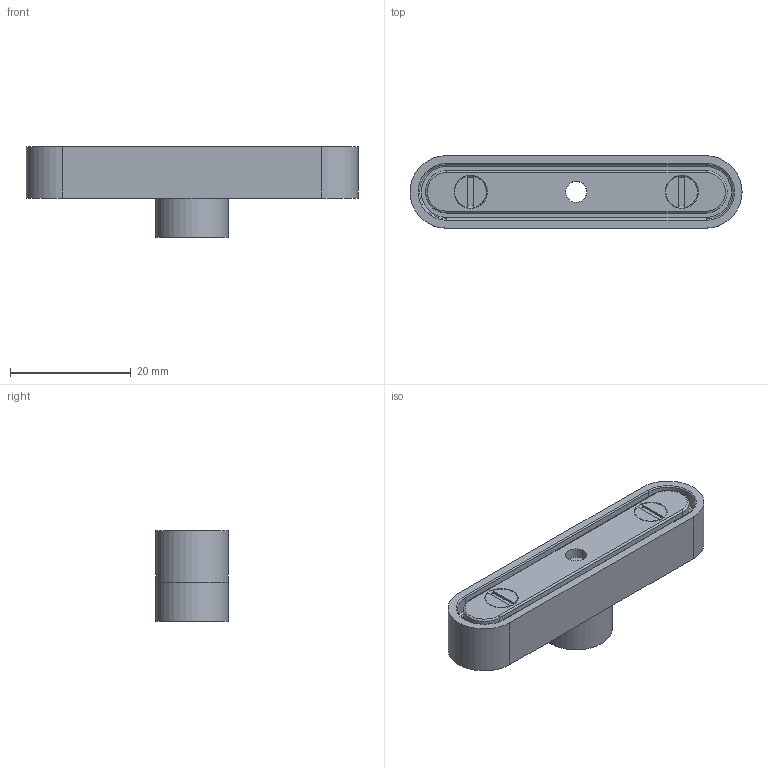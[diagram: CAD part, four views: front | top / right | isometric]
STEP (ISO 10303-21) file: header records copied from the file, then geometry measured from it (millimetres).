
FILE_DESCRIPTION((''),'2;1');
FILE_NAME('W:\Technik\Konstruktion\CAD-Daten\Vakuumsauger\270_\270.441\270.441.stp','2014-02-25T13:19:34',('RKob'),(''),'Autodesk Inventor 2012','Autodesk Inventor 2012','');
FILE_SCHEMA(('AUTOMOTIVE_DESIGN { 1 0 10303 214 1 1 1 1 }'));
Length unit declared in the file: millimetre
Products named in the file (4): 270; Bauteil1; Bauteil2; Bauteil3
Assembly tree (4 placements, depth 2):
  270
    Bauteil1
    Bauteil2
    Bauteil3  x2
Bounding box: 55 x 12 x 15 mm (x, y, z)
Volume: 4762.4 mm3; surface area: 4215.8 mm2
Topology: 4 solids, 4 shells, 69 faces, 154 edges, 95 vertices
Faces by surface type: plane 26, cylinder 24, torus 12, cone 7
Full cylindrical faces by diameter (mm): 3 x6, 3.5 x2, 8.7 x1, 12 x1
Entity records: 1706 total; most frequent: CARTESIAN_POINT 323, DIRECTION 300, ORIENTED_EDGE 220, AXIS2_PLACEMENT_3D 131, EDGE_CURVE 110, EDGE_LOOP 84, VERTEX_POINT 74, CIRCLE 64
